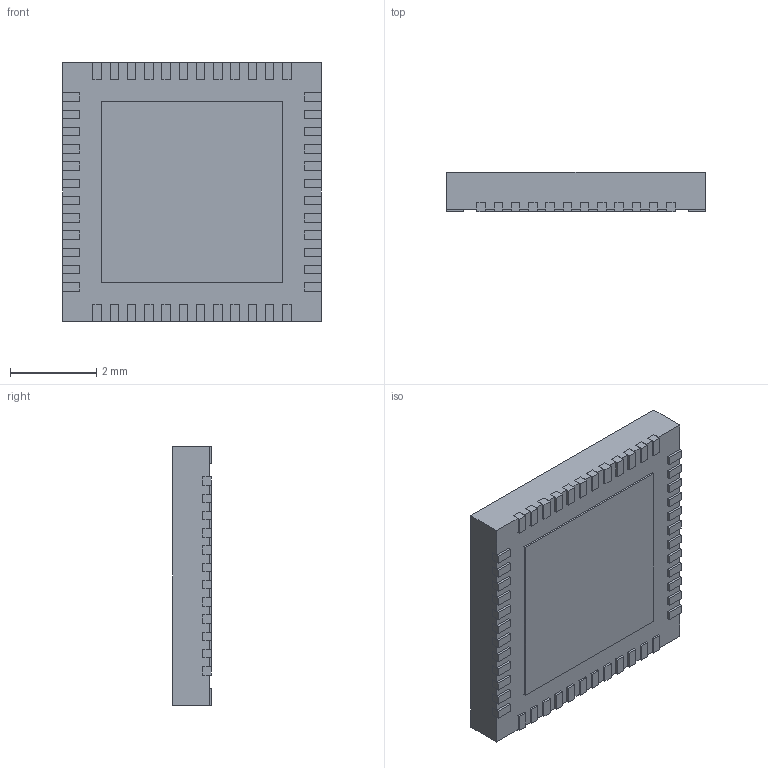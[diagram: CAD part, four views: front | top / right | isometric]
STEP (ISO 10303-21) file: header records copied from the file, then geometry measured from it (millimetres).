
FILE_DESCRIPTION (( 'STEP AP214' ), '1' );
FILE_NAME ('BLUENRG-248.STEP', '2020-12-18T08:59:53', ( '' ), ( '' ), 'SwSTEP 2.0', 'SolidWorks 2018', '' );
FILE_SCHEMA (( 'AUTOMOTIVE_DESIGN' ));
Length unit declared in the file: millimetre
Products named in the file (1): BLUENRG-248
Bounding box: 6 x 0.9 x 6 mm (x, y, z)
Volume: 31.7 mm3; surface area: 158.5 mm2
Topology: 50 solids, 50 shells, 497 faces, 1188 edges, 792 vertices
Faces by surface type: plane 497
Entity records: 14557 total; most frequent: CARTESIAN_POINT 2478, ORIENTED_EDGE 2376, DIRECTION 2184, VECTOR 1188, EDGE_CURVE 1188, LINE 1188, VERTEX_POINT 792, AXIS2_PLACEMENT_3D 498
